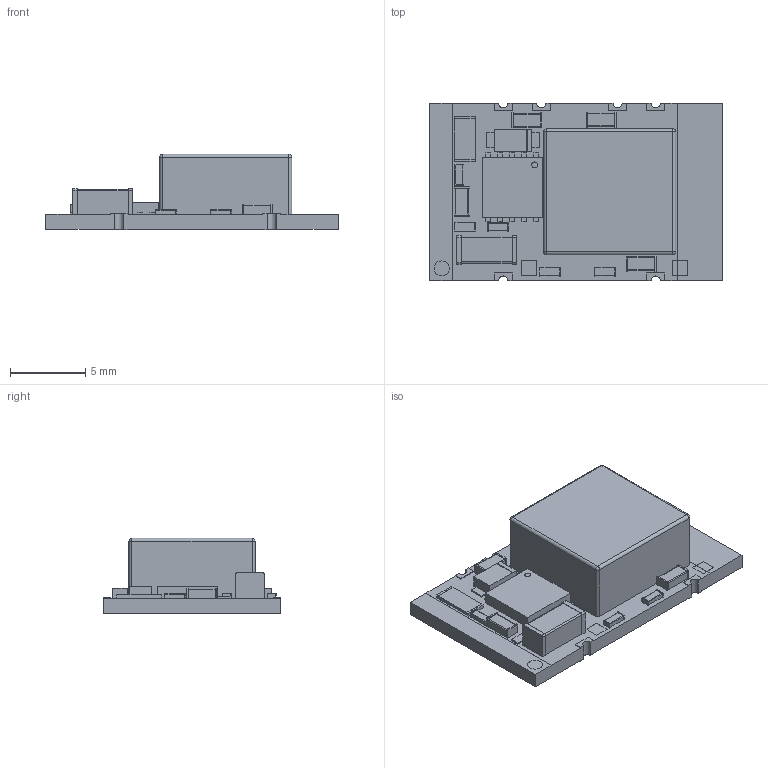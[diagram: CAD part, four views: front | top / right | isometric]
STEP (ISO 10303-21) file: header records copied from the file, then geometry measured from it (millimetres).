
FILE_DESCRIPTION (( 'STEP AP214' ), '1' );
FILE_NAME ('STH05.STEP', '2019-10-02T13:12:50', ( '' ), ( '' ), 'SwSTEP 2.0', 'SolidWorks 2018', '' );
FILE_SCHEMA (( 'AUTOMOTIVE_DESIGN' ));
Length unit declared in the file: inch
Products named in the file (1): STH05
Bounding box: 19.5 x 11.8 x 5.05 mm (x, y, z)
Volume: 560.2 mm3; surface area: 723.4 mm2
Topology: 1 solids, 1 shells, 363 faces, 1014 edges, 666 vertices
Faces by surface type: plane 287, cylinder 72, bspline 4
Entity records: 13921 total; most frequent: CARTESIAN_POINT 2124, ORIENTED_EDGE 2020, DIRECTION 1858, EDGE_CURVE 1010, VECTOR 866, LINE 866, VERTEX_POINT 666, AXIS2_PLACEMENT_3D 496
